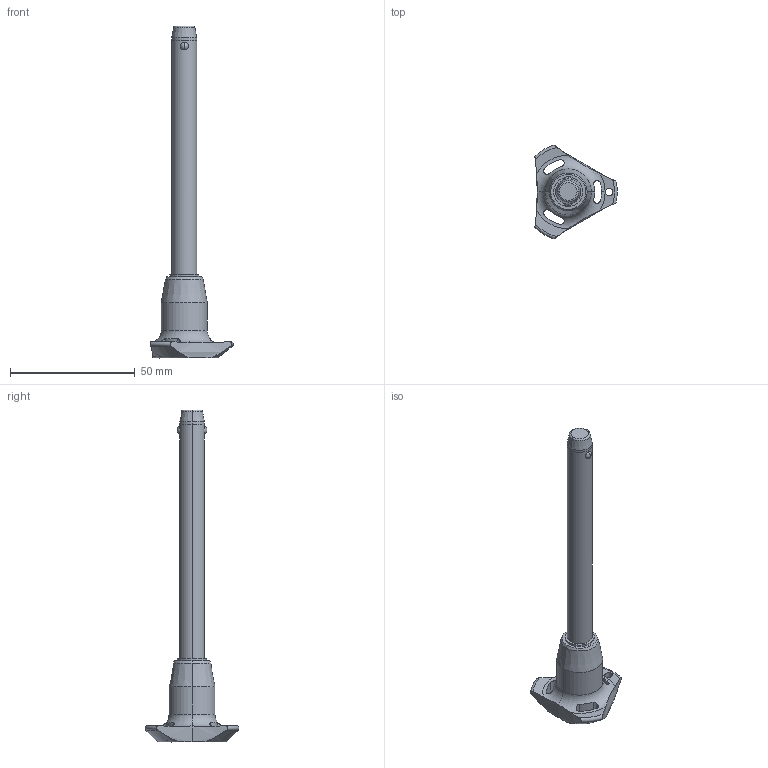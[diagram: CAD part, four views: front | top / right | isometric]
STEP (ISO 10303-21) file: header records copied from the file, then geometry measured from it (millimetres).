
FILE_DESCRIPTION (( 'STEP AP203' ), '1' );
FILE_NAME ('QR1736.M10-090-T.step', '2025-11-13T12:00:16', ( '' ), ( '' ), 'SwSTEP 2.0', 'SolidWorks 2019', '' );
FILE_SCHEMA (( 'CONFIG_CONTROL_DESIGN' ));
Length unit declared in the file: millimetre
Products named in the file (1): QR1736.M10-090-T
Bounding box: 33 x 37.51 x 132.9 mm (x, y, z)
Volume: 17475.6 mm3; surface area: 6920.8 mm2
Topology: 1 solids, 1 shells, 68 faces, 180 edges, 113 vertices
Faces by surface type: cylinder 32, cone 14, torus 11, sphere 6, plane 5
Entity records: 2823 total; most frequent: CARTESIAN_POINT 1083, ORIENTED_EDGE 360, DIRECTION 347, EDGE_CURVE 180, AXIS2_PLACEMENT_3D 154, VERTEX_POINT 113, CIRCLE 85, EDGE_LOOP 75
